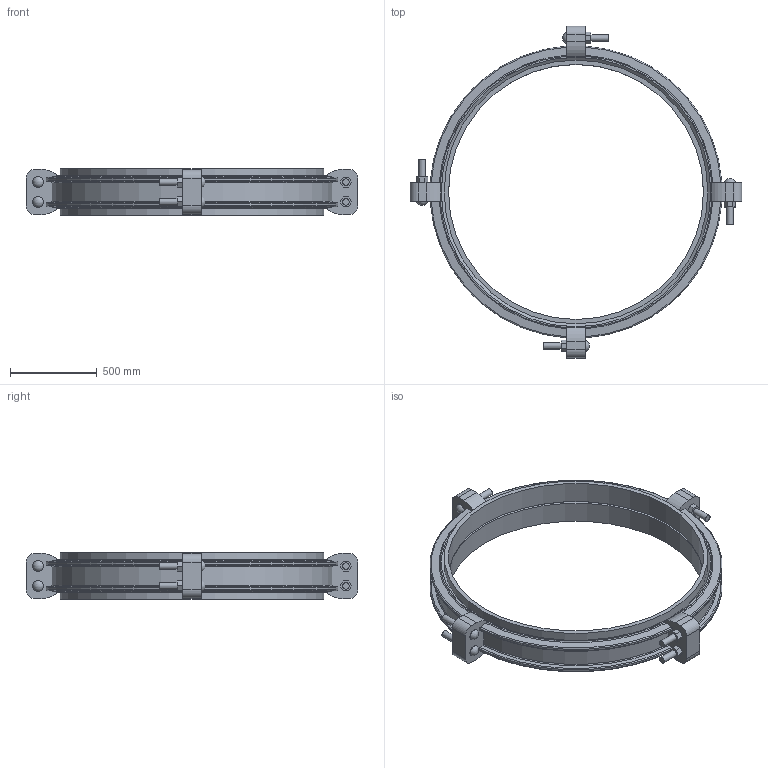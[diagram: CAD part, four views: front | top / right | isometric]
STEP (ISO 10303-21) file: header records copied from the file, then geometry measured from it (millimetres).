
FILE_DESCRIPTION(/* description */ ('VIC COUPLING FLEX STYLE W77 AGS VIC-RING ','CAx-IF Rec.Pracs.---Representation and Presentation of Product Manufacturing Information (PMI)---4.0---2014-10-13'),/* implementation_level */ '2;1');
FILE_NAME(/* name */ 'C:\Users\Vjadhav\AppData\Roaming\Autodesk\ApplicationPlugins\Victaulic.Temp\A52\Victaulic_Vic-Ring_Coupling Flexible_Style W77 (AGR)_60 (1500).stp',/* time_stamp */ '2021-12-20T11:06:57+06:00',/* author */ ('Vjadhav'),/* organization */ ('Victaulic'),/* preprocessor_version */ 'ST-DEVELOPER v17.2',/* originating_system */ 'Autodesk Inventor 2019',/* authorisation */ '');
FILE_SCHEMA (('AP242_MANAGED_MODEL_BASED_3D_ENGINEERING_MIM_LF { 1 0 10303 442 1 1 4 }'));
Length unit declared in the file: inch
Products named in the file (3): W77 VR-60.0; W77-VR-60.0; W77 VR-60.0_1
Assembly tree (3 placements, depth 2):
  W77 VR-60.0
    W77-VR-60.0
    W77 VR-60.0_1  x2
Bounding box: 1917.7 x 1917.7 x 265.94 mm (x, y, z)
Volume: 99226855.9 mm3; surface area: 6591202.8 mm2
Topology: 3 solids, 11 shells, 279 faces, 745 edges, 512 vertices
Faces by surface type: plane 138, cylinder 83, torus 32, cone 18, sphere 8
Full cylindrical faces by diameter (mm): 38.1 x16, 63.5 x8, 1473.2 x2, 1504.95 x1, 1524 x4
Entity records: 10061 total; most frequent: CARTESIAN_POINT 2672, ORIENTED_EDGE 1470, DIRECTION 1457, EDGE_CURVE 735, AXIS2_PLACEMENT_3D 537, VERTEX_POINT 504, LINE 383, VECTOR 383
